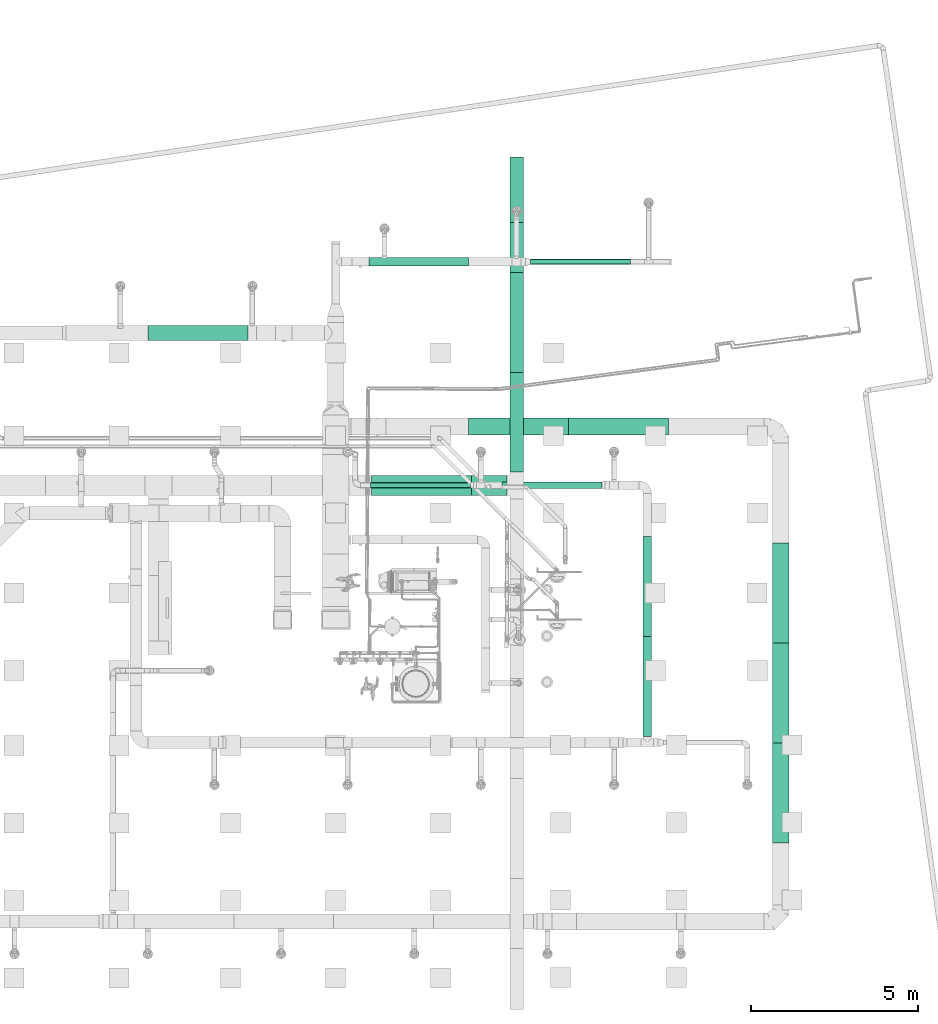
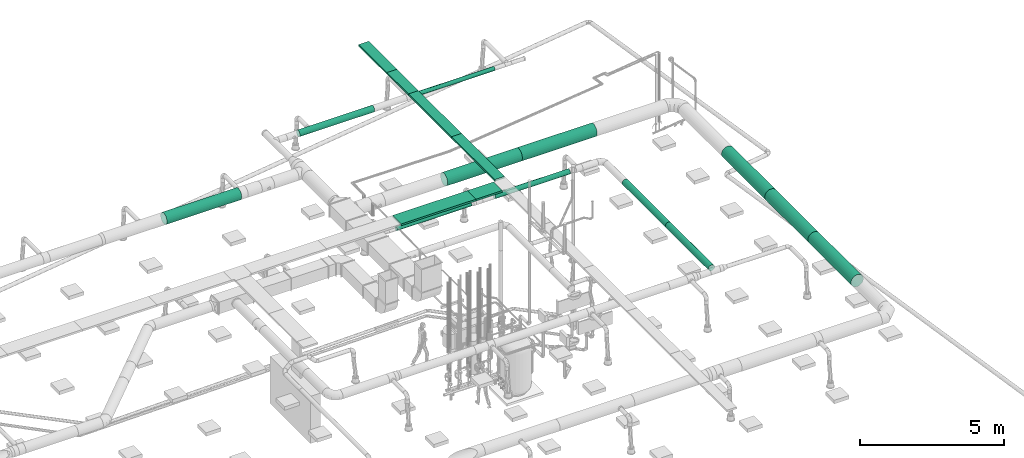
# One storey, part 14 of 374: 12 flow segments, 6 distribution elements.
"""IFC2X3 building model written with IfcOpenShell, lengths in metres."""

from ifc_helpers import new_model, si_unit, direction, frame, frame_2d, origin, place, context, subcontext, project, spatial, rectangle, extrude, open_shell, surface_model, source, transform, mapped, element, save


model = new_model("IFC2X3")

# Units and contexts
model_context = context("Model", 3, precision=1e-05, world=origin(), true_north=direction((-0.4480736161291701, 0.8939966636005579)))
body_context = subcontext(model_context, "Body", "Model", "MODEL_VIEW")
ifc_project = project(units=[si_unit("LENGTHUNIT", "METRE"), si_unit("AREAUNIT", "SQUARE_METRE"), si_unit("VOLUMEUNIT", "CUBIC_METRE"), si_unit("PLANEANGLEUNIT", "RADIAN"), si_unit("THERMODYNAMICTEMPERATUREUNIT", "KELVIN"), si_unit("MASSUNIT", "GRAM", prefix="KILO"), si_unit("TIMEUNIT", "SECOND")], contexts=[model_context])

# Site, building, storey
site_placement = place(None, origin())
site = spatial("IfcSite", under=ifc_project, at=site_placement, Name="Site 1", CompositionType="ELEMENT")
building_placement = place(site_placement, origin())
building = spatial("IfcBuilding", under=site, at=building_placement, Name="Undefined", CompositionType="ELEMENT")
storey_placement = place(building_placement, origin())
storey = spatial("IfcBuildingStorey", under=building, at=storey_placement, Name="Rez de chauss\x8ee", CompositionType="ELEMENT", Elevation=0.0)

# Flow segments
shared_shape_1 = source(origin(), body_context, "Body", "SurfaceModel", [
    surface_model("IfcFaceBasedSurfaceModel", [(0.0, 0.0652630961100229, -3.552713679e-15), (0.0, 0.0, 0.0), (3.0, 0.0, 0.0), (3.0, 0.0652630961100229, -4.4408921e-16), (0.0, -0.06303931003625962, -0.01689133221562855), (3.0, -0.06303931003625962, -0.016891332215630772), (0.0, -0.11955880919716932, -0.049522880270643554), (3.0, -0.11955880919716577, -0.049522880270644), (0.0, -0.1657067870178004, -0.09567085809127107), (3.0, -0.16570678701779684, -0.09567085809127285), (0.0, -0.1983383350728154, -0.15219035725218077), (3.0, -0.1983383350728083, -0.15219035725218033), (0.0, -0.2152296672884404, -0.2152296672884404), (3.0, -0.21522966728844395, -0.21522966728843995), (0.0, -0.2152296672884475, -0.28049276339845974), (3.0, -0.2152296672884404, -0.2804927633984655), (0.0, -0.1983383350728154, -0.3435320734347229), (3.0, -0.1983383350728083, -0.34353207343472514), (0.0, -0.1657067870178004, -0.4000515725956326), (3.0, -0.1657067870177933, -0.40005157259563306), (0.0, -0.11955880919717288, -0.44619955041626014), (3.0, -0.11955880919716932, -0.44619955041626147), (0.0, -0.06303931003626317, -0.47883109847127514), (3.0, -0.06303931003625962, -0.4788310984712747), (0.0, -7.105427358e-15, -0.49572243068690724), (3.0, -3.552713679e-15, -0.49572243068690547), (0.0, 0.0652630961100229, -0.4957224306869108), (3.0, 0.0652630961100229, -0.49572243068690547), (0.0, 0.12830240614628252, -0.47883109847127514), (3.0, 0.12830240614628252, -0.47883109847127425), (0.0, 0.18482190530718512, -0.4461995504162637), (3.0, 0.18482190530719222, -0.44619955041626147), (0.0, 0.2309698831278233, -0.4000515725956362), (3.0, 0.2309698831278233, -0.40005157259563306), (0.0, 0.26360143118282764, -0.34353207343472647), (3.0, 0.2636014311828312, -0.3435320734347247), (0.0, 0.2804927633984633, -0.2804927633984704), (3.0, 0.2804927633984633, -0.2804927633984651), (0.0, 0.28049276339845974, -0.2152296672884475), (3.0, 0.2804927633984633, -0.2152296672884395), (0.0, 0.2636014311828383, -0.15219035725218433), (3.0, 0.26360143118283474, -0.15219035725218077), (0.0, 0.2309698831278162, -0.09567085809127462), (3.0, 0.23096988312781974, -0.0956708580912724), (0.0, 0.18482190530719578, -0.049522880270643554), (3.0, 0.18482190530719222, -0.049522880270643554), (0.0, 0.12830240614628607, -0.016891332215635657), (3.0, 0.12830240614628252, -0.016891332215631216)], [open_shell([[[0, 1, 2, 3]], [[1, 4, 5, 2]], [[4, 6, 7, 5]], [[6, 8, 9, 7]], [[8, 10, 11, 9]], [[10, 12, 13, 11]], [[12, 14, 15, 13]], [[14, 16, 17, 15]], [[16, 18, 19, 17]], [[18, 20, 21, 19]], [[20, 22, 23, 21]], [[22, 24, 25, 23]], [[24, 26, 27, 25]], [[26, 28, 29, 27]], [[28, 30, 31, 29]], [[30, 32, 33, 31]], [[32, 34, 35, 33]], [[34, 36, 37, 35]], [[36, 38, 39, 37]], [[38, 40, 41, 39]], [[40, 42, 43, 41]], [[42, 44, 45, 43]], [[44, 46, 47, 45]], [[46, 0, 3, 47]]])]),
])
flow_segment_1_placement = place(storey_placement, origin())
element("IfcFlowSegment", 1, at=flow_segment_1_placement, inside=storey, Name="Tube", ObjectType="Tube", context=body_context, shape_type="MappedRepresentation", body=[
    mapped(shared_shape_1, transform((55.924995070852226, 17.649561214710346, 4.041481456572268), x_axis=(1.0, 0.0, 0.0), y_axis=(0.0, 0.9914448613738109, 0.1305261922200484), z_axis=(0.0, -0.1305261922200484, 0.9914448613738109))),
])
flow_segment_2_placement = place(storey_placement, origin())
element("IfcFlowSegment", 2, at=flow_segment_2_placement, inside=storey, Name="Tube", ObjectType="Tube", context=body_context, shape_type="MappedRepresentation", body=[
    mapped(shared_shape_1, transform((58.924995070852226, 17.649561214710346, 4.041481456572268), x_axis=(1.0, 0.0, 0.0), y_axis=(0.0, 0.9914448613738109, 0.1305261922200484), z_axis=(0.0, -0.1305261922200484, 0.9914448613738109))),
])
flow_segment_3_placement = place(storey_placement, origin())
element("IfcFlowSegment", 3, at=flow_segment_3_placement, inside=storey, Name="Tube", ObjectType="Tube", context=body_context, shape_type="MappedRepresentation", body=[
    mapped(shared_shape_1, transform((65.22530282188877, 14.214265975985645, 4.041481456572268), x_axis=(0.0, -1.0, 0.0), y_axis=(0.9914448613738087, 0.0, 0.13052619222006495), z_axis=(-0.13052619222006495, 0.0, 0.9914448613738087))),
])
flow_segment_4_placement = place(storey_placement, origin())
element("IfcFlowSegment", 4, at=flow_segment_4_placement, inside=storey, Name="Tube", ObjectType="Tube", context=body_context, shape_type="MappedRepresentation", body=[
    mapped(shared_shape_1, transform((65.22530282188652, 11.214265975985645, 4.041481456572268), x_axis=(0.0, -1.0, 0.0), y_axis=(0.9914448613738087, 0.0, 0.13052619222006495), z_axis=(-0.13052619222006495, 0.0, 0.9914448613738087))),
])
flow_segment_5_placement = place(storey_placement, origin())
element("IfcFlowSegment", 5, at=flow_segment_5_placement, inside=storey, Name="Tube", ObjectType="Tube", context=body_context, shape_type="MappedRepresentation", body=[
    mapped(shared_shape_1, transform((65.22530282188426, 8.214265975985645, 4.041481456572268), x_axis=(0.0, -1.0, 0.0), y_axis=(0.9914448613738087, 0.0, 0.13052619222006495), z_axis=(-0.13052619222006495, 0.0, 0.9914448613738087))),
])
shared_shape_2 = source(origin(), body_context, "Body", "SurfaceModel", [
    surface_model("IfcFaceBasedSurfaceModel", [(0.0, 0.02610523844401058, 0.0), (0.0, 0.0, 0.0), (3.0, 0.0, 0.0), (3.0, 0.026105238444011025, 0.0), (0.0, -0.025215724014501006, -0.006756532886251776), (3.0, -0.02521572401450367, -0.006756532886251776), (0.0, -0.04782352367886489, -0.019809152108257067), (3.0, -0.04782352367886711, -0.019809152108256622), (0.0, -0.066282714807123, -0.038268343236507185), (3.0, -0.06628271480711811, -0.03826834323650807), (0.0, -0.07933533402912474, -0.06087614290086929), (3.0, -0.0793353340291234, -0.060876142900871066), (0.0, -0.08609186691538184, -0.08609186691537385), (3.0, -0.08609186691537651, -0.08609186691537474), (0.0, -0.08609186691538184, -0.11219710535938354), (3.0, -0.08609186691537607, -0.11219710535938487), (0.0, -0.07933533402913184, -0.1374128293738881), (3.0, -0.0793353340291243, -0.137412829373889), (0.0, -0.066282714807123, -0.16002062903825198), (3.0, -0.06628271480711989, -0.16002062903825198), (0.0, -0.04782352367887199, -0.17847982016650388), (3.0, -0.04782352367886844, -0.17847982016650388), (0.0, -0.025215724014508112, -0.19153243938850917), (3.0, -0.025215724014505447, -0.19153243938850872), (0.0, -7.105427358e-15, -0.19828897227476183), (3.0, -8.8817842e-16, -0.1982889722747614), (0.0, 0.026105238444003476, -0.19828897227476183), (3.0, 0.026105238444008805, -0.19828897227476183), (0.0, 0.05132096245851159, -0.19153243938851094), (3.0, 0.051320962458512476, -0.1915324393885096), (0.0, 0.07392876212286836, -0.17847982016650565), (3.0, 0.07392876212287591, -0.17847982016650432), (0.0, 0.09238795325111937, -0.16002062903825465), (3.0, 0.09238795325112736, -0.16002062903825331), (0.0, 0.10544057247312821, -0.13741282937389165), (3.0, 0.1054405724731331, -0.13741282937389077), (0.0, 0.11219710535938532, -0.11219710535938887), (3.0, 0.11219710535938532, -0.11219710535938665), (0.0, 0.11219710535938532, -0.08609186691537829), (3.0, 0.1121971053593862, -0.08609186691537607), (0.0, 0.10544057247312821, -0.06087614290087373), (3.0, 0.10544057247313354, -0.0608761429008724), (0.0, 0.09238795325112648, -0.03826834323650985), (3.0, 0.0923879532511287, -0.038268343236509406), (0.0, 0.07392876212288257, -0.019809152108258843), (3.0, 0.07392876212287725, -0.01980915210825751), (0.0, 0.05132096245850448, -0.006756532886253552), (3.0, 0.05132096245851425, -0.006756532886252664)], [open_shell([[[0, 1, 2, 3]], [[1, 4, 5, 2]], [[4, 6, 7, 5]], [[6, 8, 9, 7]], [[8, 10, 11, 9]], [[10, 12, 13, 11]], [[12, 14, 15, 13]], [[14, 16, 17, 15]], [[16, 18, 19, 17]], [[18, 20, 21, 19]], [[20, 22, 23, 21]], [[22, 24, 25, 23]], [[24, 26, 27, 25]], [[26, 28, 29, 27]], [[28, 30, 31, 29]], [[30, 32, 33, 31]], [[32, 34, 35, 33]], [[34, 36, 37, 35]], [[36, 38, 39, 37]], [[38, 40, 41, 39]], [[40, 42, 43, 41]], [[42, 44, 45, 43]], [[44, 46, 47, 45]], [[46, 0, 3, 47]]])]),
])
flow_segment_6_placement = place(storey_placement, origin())
element("IfcFlowSegment", 6, at=flow_segment_6_placement, inside=storey, Name="Tube", ObjectType="Tube", context=body_context, shape_type="MappedRepresentation", body=[
    mapped(shared_shape_2, transform((59.92524025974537, 15.980880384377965, 3.8965925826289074), x_axis=(-1.0, 0.0, 0.0), y_axis=(7.266545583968e-12, -0.9914448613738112, 0.13052619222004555), z_axis=(0.0, 0.13052619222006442, 0.9914448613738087))),
])
shared_shape_3 = source(origin(), body_context, "Body", "SurfaceModel", [
    surface_model("IfcFaceBasedSurfaceModel", [(0.0, 0.020884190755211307, 0.0), (0.0, 0.0, 0.0), (3.0, 0.0, 0.0), (3.0, 0.020884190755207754, -4.4408921e-16), (0.0, -0.020172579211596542, -0.005405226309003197), (3.0, -0.020172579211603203, -0.005405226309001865), (0.0, -0.03825881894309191, -0.015847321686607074), (3.0, -0.03825881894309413, -0.015847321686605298), (0.0, -0.05302617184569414, -0.0306146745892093), (3.0, -0.053026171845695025, -0.030614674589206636), (0.0, -0.06346826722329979, -0.04870091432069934), (3.0, -0.06346826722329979, -0.04870091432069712), (0.0, -0.06887349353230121, -0.06887349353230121), (3.0, -0.0688734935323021, -0.06887349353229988), (0.0, -0.06887349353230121, -0.08975768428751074), (3.0, -0.0688734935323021, -0.08975768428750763), (0.0, -0.06346826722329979, -0.10993026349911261), (3.0, -0.06346826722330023, -0.10993026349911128), (0.0, -0.05302617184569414, -0.12801650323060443), (3.0, -0.0530261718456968, -0.12801650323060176), (0.0, -0.038258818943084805, -0.14278385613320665), (3.0, -0.03825881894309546, -0.1427838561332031), (0.0, -0.020172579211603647, -0.15322595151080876), (3.0, -0.020172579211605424, -0.15322595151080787), (0.0, 7.105427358e-15, -0.15863117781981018), (3.0, -2.664535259e-15, -0.15863117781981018), (0.0, 0.020884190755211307, -0.15863117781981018), (3.0, 0.020884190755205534, -0.15863117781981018), (0.0, 0.04105676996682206, -0.15322595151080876), (3.0, 0.04105676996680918, -0.1532259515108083), (0.0, 0.05914300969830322, -0.1427838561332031), (3.0, 0.059143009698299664, -0.14278385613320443), (0.0, 0.07391036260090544, -0.12801650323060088), (3.0, 0.073910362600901, -0.12801650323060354), (0.0, 0.0843524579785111, -0.10993026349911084), (3.0, 0.08435245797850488, -0.10993026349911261), (0.0, 0.08975768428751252, -0.08975768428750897), (3.0, 0.08975768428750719, -0.08975768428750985), (0.0, 0.08975768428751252, -0.06887349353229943), (3.0, 0.08975768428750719, -0.0688734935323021), (0.0, 0.0843524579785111, -0.048700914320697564), (3.0, 0.08435245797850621, -0.048700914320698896), (0.0, 0.07391036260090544, -0.030614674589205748), (3.0, 0.07391036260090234, -0.03061467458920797), (0.0, 0.05914300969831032, -0.015847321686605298), (3.0, 0.05914300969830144, -0.015847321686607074), (0.0, 0.04105676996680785, -0.005405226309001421), (3.0, 0.041056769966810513, -0.005405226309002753)], [open_shell([[[0, 1, 2, 3]], [[1, 4, 5, 2]], [[4, 6, 7, 5]], [[6, 8, 9, 7]], [[8, 10, 11, 9]], [[10, 12, 13, 11]], [[12, 14, 15, 13]], [[14, 16, 17, 15]], [[16, 18, 19, 17]], [[18, 20, 21, 19]], [[20, 22, 23, 21]], [[22, 24, 25, 23]], [[24, 26, 27, 25]], [[26, 28, 29, 27]], [[28, 30, 31, 29]], [[30, 32, 33, 31]], [[32, 34, 35, 33]], [[34, 36, 37, 35]], [[36, 38, 39, 37]], [[38, 40, 41, 39]], [[40, 42, 43, 41]], [[42, 44, 45, 43]], [[44, 46, 47, 45]], [[46, 0, 3, 47]]])]),
])
flow_segment_7_placement = place(storey_placement, origin())
element("IfcFlowSegment", 7, at=flow_segment_7_placement, inside=storey, Name="Tube", ObjectType="Tube", context=body_context, shape_type="MappedRepresentation", body=[
    mapped(shared_shape_3, transform((55.9792401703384, 15.975704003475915, 3.877274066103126), x_axis=(-1.0, 0.0, 0.0), y_axis=(7.266545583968e-12, -0.9914448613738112, 0.13052619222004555), z_axis=(0.0, 0.13052619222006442, 0.9914448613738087))),
])
flow_segment_8_placement = place(storey_placement, origin())
element("IfcFlowSegment", 8, at=flow_segment_8_placement, inside=storey, Name="Tube", ObjectType="Tube", context=body_context, shape_type="MappedRepresentation", body=[
    mapped(shared_shape_3, transform((57.780000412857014, 22.637169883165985, 3.877274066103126), x_axis=(1.0, 0.0, 0.0), y_axis=(0.0, 0.9914448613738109, 0.1305261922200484), z_axis=(0.0, -0.1305261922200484, 0.9914448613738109))),
])
shared_shape_4 = source(origin(), body_context, "Body", "SurfaceModel", [
    surface_model("IfcFaceBasedSurfaceModel", [(0.0, 0.05873678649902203, -2.77555756e-16), (0.0, 0.0, 0.0), (3.0, 0.0, 0.0), (3.0, 0.05873678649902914, 8.8817842e-16), (0.0, -0.05673537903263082, -0.015202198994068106), (3.0, -0.05673537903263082, -0.015202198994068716), (0.0, -0.10760292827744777, -0.044570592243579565), (3.0, -0.10760292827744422, -0.04457059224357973), (0.0, -0.14913610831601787, -0.08610377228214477), (3.0, -0.14913610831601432, -0.08610377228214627), (0.0, -0.1785045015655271, -0.13697132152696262), (3.0, -0.17850450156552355, -0.13697132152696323), (0.0, -0.19370670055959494, -0.1937067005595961), (3.0, -0.19370670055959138, -0.1937067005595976), (0.0, -0.19370670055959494, -0.252443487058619), (3.0, -0.19370670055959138, -0.25244348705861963), (0.0, -0.1785045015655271, -0.30917886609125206), (3.0, -0.1785045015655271, -0.309178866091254), (0.0, -0.14913610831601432, -0.36004641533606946), (3.0, -0.1491361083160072, -0.36004641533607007), (0.0, -0.10760292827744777, -0.40157959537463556), (3.0, -0.10760292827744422, -0.4015795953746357), (0.0, -0.05673537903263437, -0.43094798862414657), (3.0, -0.05673537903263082, -0.43094798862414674), (0.0, 0.0, -0.4461501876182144), (3.0, 1.0658141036e-14, -0.44615018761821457), (0.0, 0.058736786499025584, -0.4461501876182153), (3.0, 0.05873678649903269, -0.44615018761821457), (0.0, 0.1154721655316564, -0.430947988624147), (3.0, 0.1154721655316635, -0.43094798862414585), (0.0, 0.16633971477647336, -0.4015795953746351), (3.0, 0.16633971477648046, -0.40157959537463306), (0.0, 0.20787289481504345, -0.3600464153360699), (3.0, 0.207872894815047, -0.3600464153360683), (0.0, 0.23724128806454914, -0.3091788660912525), (3.0, 0.23724128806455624, -0.30917886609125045), (0.0, 0.25244348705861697, -0.25244348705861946), (3.0, 0.25244348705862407, -0.25244348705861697), (0.0, 0.25244348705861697, -0.1937067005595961), (3.0, 0.25244348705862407, -0.19370670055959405), (0.0, 0.2372412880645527, -0.13697132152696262), (3.0, 0.2372412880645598, -0.13697132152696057), (0.0, 0.2078728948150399, -0.08610377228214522), (3.0, 0.20787289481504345, -0.08610377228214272), (0.0, 0.16633971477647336, -0.044570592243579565), (3.0, 0.1663397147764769, -0.044570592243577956), (0.0, 0.11547216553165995, -0.01520219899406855), (3.0, 0.1154721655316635, -0.01520219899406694)], [open_shell([[[0, 1, 2, 3]], [[1, 4, 5, 2]], [[4, 6, 7, 5]], [[6, 8, 9, 7]], [[8, 10, 11, 9]], [[10, 12, 13, 11]], [[12, 14, 15, 13]], [[14, 16, 17, 15]], [[16, 18, 19, 17]], [[18, 20, 21, 19]], [[20, 22, 23, 21]], [[22, 24, 25, 23]], [[24, 26, 27, 25]], [[26, 28, 29, 27]], [[28, 30, 31, 29]], [[30, 32, 33, 31]], [[32, 34, 35, 33]], [[34, 36, 37, 35]], [[36, 38, 39, 37]], [[38, 40, 41, 39]], [[40, 42, 43, 41]], [[42, 44, 45, 43]], [[44, 46, 47, 45]], [[46, 0, 3, 47]]])]),
])
flow_segment_9_placement = place(storey_placement, origin())
element("IfcFlowSegment", 9, at=flow_segment_9_placement, inside=storey, Name="Tube", ObjectType="Tube", context=body_context, shape_type="MappedRepresentation", body=[
    mapped(shared_shape_4, transform((49.30071153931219, 20.585122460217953, 4.017333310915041), x_axis=(-1.0, 0.0, 0.0), y_axis=(7.266545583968e-12, -0.9914448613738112, 0.13052619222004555), z_axis=(0.0, 0.13052619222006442, 0.9914448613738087))),
])
shared_shape_5 = source(origin(), body_context, "Body", "SurfaceModel", [
    surface_model("IfcFaceBasedSurfaceModel", [(0.0, 0.03263154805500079, 0.0), (0.0, 0.0, 0.0), (3.0, 0.0, 0.0), (3.0, 0.03263154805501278, -4.4408921e-16), (0.0, -0.031519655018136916, -0.008445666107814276), (3.0, -0.03151965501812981, -0.008445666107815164), (0.0, -0.05977940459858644, -0.024761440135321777), (3.0, -0.05977940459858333, -0.02476144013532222), (0.0, -0.08285339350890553, -0.047835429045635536), (3.0, -0.08285339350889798, -0.04783542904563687), (0.0, -0.09916916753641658, -0.07609517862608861), (3.0, -0.09916916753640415, -0.07609517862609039), (0.0, -0.1076148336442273, -0.10761483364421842), (3.0, -0.10761483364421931, -0.10761483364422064), (0.0, -0.1076148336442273, -0.14024638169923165), (3.0, -0.10761483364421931, -0.14024638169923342), (0.0, -0.09916916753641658, -0.17176603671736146), (3.0, -0.09916916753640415, -0.17176603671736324), (0.0, -0.08285339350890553, -0.2000257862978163), (3.0, -0.08285339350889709, -0.20002578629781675), (0.0, -0.059779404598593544, -0.22309977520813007), (3.0, -0.059779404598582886, -0.22309977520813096), (0.0, -0.03151965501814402, -0.23941554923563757), (3.0, -0.03151965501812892, -0.23941554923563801), (0.0, -1.4210854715e-14, -0.24786121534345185), (3.0, 8.8817842e-16, -0.24786121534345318), (0.0, 0.03263154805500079, -0.24786121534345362), (3.0, 0.032631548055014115, -0.24786121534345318), (0.0, 0.0641512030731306, -0.23941554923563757), (3.0, 0.06415120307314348, -0.23941554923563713), (0.0, 0.09241095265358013, -0.22309977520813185), (3.0, 0.092410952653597, -0.22309977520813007), (0.0, 0.11548494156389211, -0.2000257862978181), (3.0, 0.11548494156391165, -0.20002578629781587), (0.0, 0.13180071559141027, -0.171766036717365), (3.0, 0.13180071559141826, -0.1717660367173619), (0.0, 0.140246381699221, -0.1402463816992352), (3.0, 0.14024638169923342, -0.14024638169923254), (0.0, 0.140246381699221, -0.10761483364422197), (3.0, 0.14024638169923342, -0.10761483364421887), (0.0, 0.13180071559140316, -0.07609517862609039), (3.0, 0.13180071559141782, -0.07609517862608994), (0.0, 0.11548494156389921, -0.04783542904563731), (3.0, 0.11548494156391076, -0.047835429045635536), (0.0, 0.09241095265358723, -0.024761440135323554), (3.0, 0.09241095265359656, -0.024761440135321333), (0.0, 0.06415120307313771, -0.008445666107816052), (3.0, 0.06415120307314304, -0.008445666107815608)], [open_shell([[[0, 1, 2, 3]], [[1, 4, 5, 2]], [[4, 6, 7, 5]], [[6, 8, 9, 7]], [[8, 10, 11, 9]], [[10, 12, 13, 11]], [[12, 14, 15, 13]], [[14, 16, 17, 15]], [[16, 18, 19, 17]], [[18, 20, 21, 19]], [[20, 22, 23, 21]], [[22, 24, 25, 23]], [[24, 26, 27, 25]], [[26, 28, 29, 27]], [[28, 30, 31, 29]], [[30, 32, 33, 31]], [[32, 34, 35, 33]], [[34, 36, 37, 35]], [[36, 38, 39, 37]], [[38, 40, 41, 39]], [[40, 42, 43, 41]], [[42, 44, 45, 43]], [[44, 46, 47, 45]], [[46, 0, 3, 47]]])]),
])
flow_segment_10_placement = place(storey_placement, origin())
element("IfcFlowSegment", 10, at=flow_segment_10_placement, inside=storey, Name="Tube", ObjectType="Tube", context=body_context, shape_type="MappedRepresentation", body=[
    mapped(shared_shape_5, transform((61.32183991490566, 8.414999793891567, 3.920740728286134), x_axis=(0.0, 1.0, 0.0), y_axis=(-0.9914448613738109, 0.0, 0.1305261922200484), z_axis=(0.1305261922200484, 0.0, 0.9914448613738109))),
])
flow_segment_11_placement = place(storey_placement, origin())
element("IfcFlowSegment", 11, at=flow_segment_11_placement, inside=storey, Name="Tube", ObjectType="Tube", context=body_context, shape_type="MappedRepresentation", body=[
    mapped(shared_shape_5, transform((61.32183991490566, 11.414999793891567, 3.920740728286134), x_axis=(0.0, 1.0, 0.0), y_axis=(-0.9914448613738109, 0.0, 0.1305261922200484), z_axis=(0.1305261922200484, 0.0, 0.9914448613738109))),
])
flow_segment_12_placement = place(storey_placement, origin())
element("IfcFlowSegment", 12, at=flow_segment_12_placement, inside=storey, Name="Tube", ObjectType="Tube", context=body_context, shape_type="MappedRepresentation", body=[
    mapped(shared_shape_5, transform((52.924995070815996, 22.625523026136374, 3.920740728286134), x_axis=(1.0, 0.0, 0.0), y_axis=(0.0, 0.9914448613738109, 0.1305261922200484), z_axis=(0.0, -0.1305261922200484, 0.9914448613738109))),
])

# Distribution elements
distribution_element_1_placement = place(storey_placement, origin())
element("IfcDistributionElement", 13, at=distribution_element_1_placement, inside=storey, Name="Chemin(s) de câbles", ObjectType="Chemin(s) de câbles", context=body_context, shape_type="SweptSolid", body=[
    extrude(rectangle(XDim=0.4, YDim=0.08, at=frame_2d((3.552713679e-15, 0.0), x_axis=(-1.0, 0.0))), frame((57.36899699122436, 23.839000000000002, 4.14), z_axis=(0.0, 1.0, 0.0), x_axis=(-1.0, 0.0, 0.0)), (0.0, 0.0, 1.0), 1.963347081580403),
])
distribution_element_2_placement = place(storey_placement, origin())
element("IfcDistributionElement", 14, at=distribution_element_2_placement, inside=storey, Name="Chemin(s) de câbles", ObjectType="Chemin(s) de câbles", context=body_context, shape_type="SweptSolid", body=[
    extrude(rectangle(XDim=0.6, YDim=0.08, at=frame_2d((3.552713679e-15, 0.0), x_axis=(-1.0, 0.0))), frame((53.011, 15.943637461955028, 4.14), z_axis=(1.0, 0.0, 0.0), x_axis=(0.0, 1.0, 0.0)), (0.0, 0.0, 1.0), 3.0),
])
distribution_element_3_placement = place(storey_placement, origin())
element("IfcDistributionElement", 15, at=distribution_element_3_placement, inside=storey, Name="Chemin(s) de câbles", ObjectType="Chemin(s) de câbles", context=body_context, shape_type="SweptSolid", body=[
    extrude(rectangle(XDim=0.4, YDim=0.08, at=frame_2d((3.552713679e-15, 0.0), x_axis=(-1.0, 0.0))), frame((57.36899699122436, 16.34363746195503, 4.14), z_axis=(0.0, 1.0, 0.0), x_axis=(-1.0, 0.0, 0.0)), (0.0, 0.0, 1.0), 3.0),
])
distribution_element_4_placement = place(storey_placement, origin())
element("IfcDistributionElement", 16, at=distribution_element_4_placement, inside=storey, Name="Chemin(s) de câbles", ObjectType="Chemin(s) de câbles", context=body_context, shape_type="SweptSolid", body=[
    extrude(rectangle(XDim=0.4, YDim=0.08, at=frame_2d((3.552713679e-15, 0.0), x_axis=(-1.0, 0.0))), frame((57.36899699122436, 19.343637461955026, 4.14), z_axis=(0.0, 1.0, 0.0), x_axis=(-1.0, 0.0, 0.0)), (0.0, 0.0, 1.0), 3.0),
])
distribution_element_5_placement = place(storey_placement, origin())
element("IfcDistributionElement", 17, at=distribution_element_5_placement, inside=storey, Name="Chemin(s) de câbles", ObjectType="Chemin(s) de câbles", context=body_context, shape_type="SweptSolid", body=[
    extrude(rectangle(XDim=0.4, YDim=0.08, at=frame_2d((3.552713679e-15, 0.0), x_axis=(-1.0, 0.0))), frame((57.36899699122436, 22.343637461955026, 4.14), z_axis=(0.0, 1.0, 0.0), x_axis=(-1.0, 0.0, 0.0)), (0.0, 0.0, 1.0), 1.495362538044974),
])
distribution_element_6_placement = place(storey_placement, origin())
element("IfcDistributionElement", 18, at=distribution_element_6_placement, inside=storey, Name="Chemin(s) de câbles", ObjectType="Chemin(s) de câbles", context=body_context, shape_type="SweptSolid", body=[
    extrude(rectangle(XDim=0.6, YDim=0.08, at=frame_2d((3.552713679e-15, 0.0), x_axis=(-1.0, 0.0))), frame((56.011, 15.943637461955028, 4.14), z_axis=(1.0, 0.0, 0.0), x_axis=(0.0, 1.0, 0.0)), (0.0, 0.0, 1.0), 1.057996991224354),
])

save(model, "model.ifc")
